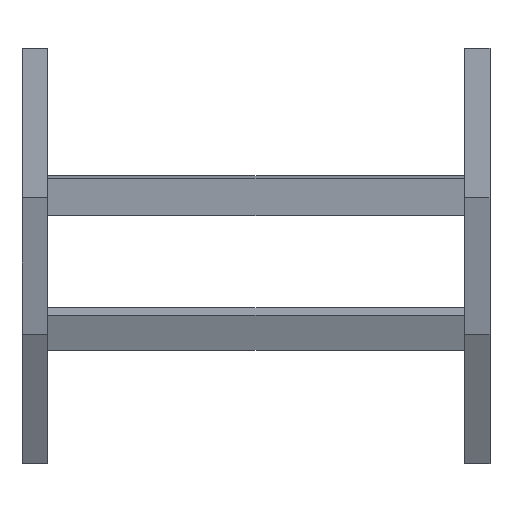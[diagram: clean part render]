
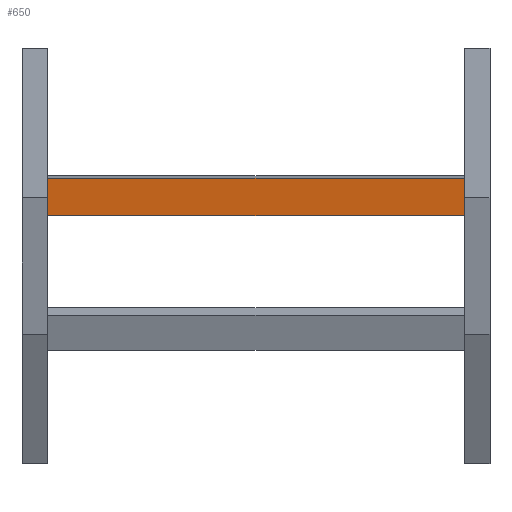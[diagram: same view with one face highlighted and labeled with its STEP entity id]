
A CAD part, front view. The second image highlights one B-rep face of the part: STEP entity #650.
In plain terms, the highlighted planar face has unit normal (0, -0.991, -0.131) as drawn and (0, -1, 0) by its records, which use the part's own axes.
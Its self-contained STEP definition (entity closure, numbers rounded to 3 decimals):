
#19 = VERTEX_POINT ( 'NONE', #459 ) ;
#60 = LINE ( 'NONE', #723, #473 ) ;
#161 = VECTOR ( 'NONE', #1178, 1000. ) ;
#177 = EDGE_CURVE ( 'NONE', #652, #19, #752, .T. ) ;
#259 = DIRECTION ( 'NONE',  ( 0., 0., -1. ) ) ;
#262 = VERTEX_POINT ( 'NONE', #1344 ) ;
#285 = ORIENTED_EDGE ( 'NONE', *, *, #177, .T. ) ;
#346 = VERTEX_POINT ( 'NONE', #1239 ) ;
#425 = EDGE_LOOP ( 'NONE', ( #919, #1446, #665, #285 ) ) ;
#459 = CARTESIAN_POINT ( 'NONE',  ( -248., 0., 20.25 ) ) ;
#473 = VECTOR ( 'NONE', #1093, 1000. ) ;
#527 = CARTESIAN_POINT ( 'NONE',  ( 248., 0., 20.25 ) ) ;
#585 = EDGE_CURVE ( 'NONE', #262, #346, #845, .T. ) ;
#650 = ADVANCED_FACE ( 'NONE', ( #1470 ), #753, .F. ) ;
#652 = VERTEX_POINT ( 'NONE', #881 ) ;
#665 = ORIENTED_EDGE ( 'NONE', *, *, #1487, .F. ) ;
#698 = CARTESIAN_POINT ( 'NONE',  ( 248., 0., 20.25 ) ) ;
#706 = CARTESIAN_POINT ( 'NONE',  ( 248., 0., -20.25 ) ) ;
#723 = CARTESIAN_POINT ( 'NONE',  ( -248., 0., 20.25 ) ) ;
#752 = LINE ( 'NONE', #1198, #1368 ) ;
#753 = PLANE ( 'NONE',  #755 ) ;
#755 = AXIS2_PLACEMENT_3D ( 'NONE', #527, #1112, #1462 ) ;
#845 = LINE ( 'NONE', #706, #161 ) ;
#881 = CARTESIAN_POINT ( 'NONE',  ( 248., 0., 20.25 ) ) ;
#919 = ORIENTED_EDGE ( 'NONE', *, *, #1232, .T. ) ;
#924 = VECTOR ( 'NONE', #259, 1000. ) ;
#1093 = DIRECTION ( 'NONE',  ( 0., 0., -1. ) ) ;
#1112 = DIRECTION ( 'NONE',  ( 0., 1., 0. ) ) ;
#1178 = DIRECTION ( 'NONE',  ( -1., 0., 0. ) ) ;
#1198 = CARTESIAN_POINT ( 'NONE',  ( 248., 0., 20.25 ) ) ;
#1232 = EDGE_CURVE ( 'NONE', #19, #346, #60, .T. ) ;
#1239 = CARTESIAN_POINT ( 'NONE',  ( -248., 0., -20.25 ) ) ;
#1291 = LINE ( 'NONE', #698, #924 ) ;
#1344 = CARTESIAN_POINT ( 'NONE',  ( 248., 0., -20.25 ) ) ;
#1368 = VECTOR ( 'NONE', #1437, 1000. ) ;
#1437 = DIRECTION ( 'NONE',  ( -1., 0., 0. ) ) ;
#1446 = ORIENTED_EDGE ( 'NONE', *, *, #585, .F. ) ;
#1462 = DIRECTION ( 'NONE',  ( 0., 0., 1. ) ) ;
#1470 = FACE_OUTER_BOUND ( 'NONE', #425, .T. ) ;
#1487 = EDGE_CURVE ( 'NONE', #652, #262, #1291, .T. ) ;
